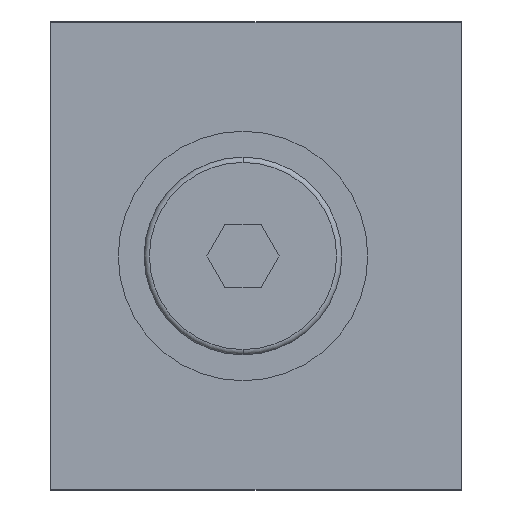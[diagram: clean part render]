
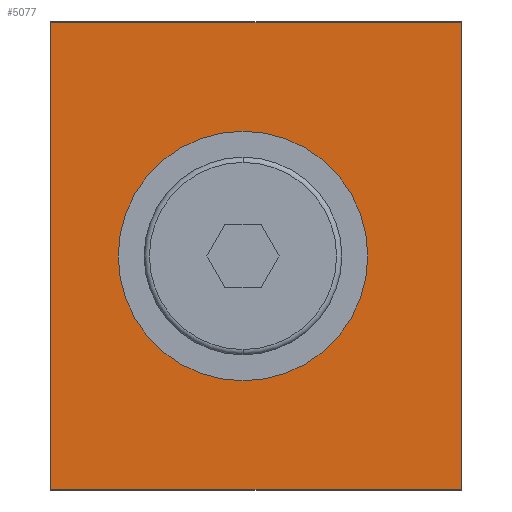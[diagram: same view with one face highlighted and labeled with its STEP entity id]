
A CAD part, left-side view. The second image highlights one B-rep face of the part: STEP entity #5077.
In plain terms, the highlighted planar face has unit normal (-1, 0, 0).
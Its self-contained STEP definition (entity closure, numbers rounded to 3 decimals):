
#37 = CARTESIAN_POINT ( 'NONE',  ( 0., 21., 22.5 ) ) ;
#66 = CARTESIAN_POINT ( 'NONE',  ( 0., 39.5, -0.707 ) ) ;
#76 = VERTEX_POINT ( 'NONE', #478 ) ;
#361 = EDGE_LOOP ( 'NONE', ( #4509, #5651, #4097, #3228 ) ) ;
#423 = CARTESIAN_POINT ( 'NONE',  ( 0., 21., 10.5 ) ) ;
#478 = CARTESIAN_POINT ( 'NONE',  ( 0., 0., 45. ) ) ;
#1446 = DIRECTION ( 'NONE',  ( -1., 0., 0. ) ) ;
#1518 = VECTOR ( 'NONE', #7229, 1000. ) ;
#1531 = LINE ( 'NONE', #66, #1542 ) ;
#1534 = VECTOR ( 'NONE', #9326, 1000. ) ;
#1542 = VECTOR ( 'NONE', #7477, 1000. ) ;
#1550 = LINE ( 'NONE', #7681, #1518 ) ;
#1706 = VECTOR ( 'NONE', #9289, 1000. ) ;
#1730 = LINE ( 'NONE', #7777, #1706 ) ;
#1753 = LINE ( 'NONE', #7891, #1534 ) ;
#2157 = CIRCLE ( 'NONE', #4427, 12. ) ;
#2498 = VERTEX_POINT ( 'NONE', #3493 ) ;
#2742 = EDGE_CURVE ( 'NONE', #4976, #2900, #4412, .T. ) ;
#2900 = VERTEX_POINT ( 'NONE', #4676 ) ;
#2993 = CARTESIAN_POINT ( 'NONE',  ( 0., 39.5, 0. ) ) ;
#3228 = ORIENTED_EDGE ( 'NONE', *, *, #6023, .F. ) ;
#3493 = CARTESIAN_POINT ( 'NONE',  ( 0., 0., 0. ) ) ;
#4097 = ORIENTED_EDGE ( 'NONE', *, *, #6082, .F. ) ;
#4103 = CARTESIAN_POINT ( 'NONE',  ( 0., 0., 45. ) ) ;
#4412 = CIRCLE ( 'NONE', #7017, 12. ) ;
#4427 = AXIS2_PLACEMENT_3D ( 'NONE', #37, #1446, #9029 ) ;
#4509 = ORIENTED_EDGE ( 'NONE', *, *, #6057, .T. ) ;
#4676 = CARTESIAN_POINT ( 'NONE',  ( 0., 21., 34.5 ) ) ;
#4976 = VERTEX_POINT ( 'NONE', #423 ) ;
#5077 = ADVANCED_FACE ( 'NONE', ( #7489, #7519 ), #5217, .F. ) ;
#5217 = PLANE ( 'NONE',  #5600 ) ;
#5600 = AXIS2_PLACEMENT_3D ( 'NONE', #4103, #6994, #7207 ) ;
#5651 = ORIENTED_EDGE ( 'NONE', *, *, #6071, .T. ) ;
#5695 = VERTEX_POINT ( 'NONE', #6398 ) ;
#5897 = CARTESIAN_POINT ( 'NONE',  ( 0., 21., 22.5 ) ) ;
#5966 = EDGE_CURVE ( 'NONE', #2900, #4976, #2157, .T. ) ;
#6023 = EDGE_CURVE ( 'NONE', #2498, #8282, #1730, .T. ) ;
#6057 = EDGE_CURVE ( 'NONE', #2498, #76, #1753, .T. ) ;
#6071 = EDGE_CURVE ( 'NONE', #76, #5695, #1550, .T. ) ;
#6082 = EDGE_CURVE ( 'NONE', #8282, #5695, #1531, .T. ) ;
#6305 = ORIENTED_EDGE ( 'NONE', *, *, #5966, .F. ) ;
#6398 = CARTESIAN_POINT ( 'NONE',  ( 0., 39.5, 45. ) ) ;
#6664 = ORIENTED_EDGE ( 'NONE', *, *, #2742, .F. ) ;
#6845 = DIRECTION ( 'NONE',  ( 0., 0., 1. ) ) ;
#6994 = DIRECTION ( 'NONE',  ( 1., 0., 0. ) ) ;
#7017 = AXIS2_PLACEMENT_3D ( 'NONE', #5897, #7860, #6845 ) ;
#7207 = DIRECTION ( 'NONE',  ( 0., 0., -1. ) ) ;
#7229 = DIRECTION ( 'NONE',  ( 0., 1., 0. ) ) ;
#7477 = DIRECTION ( 'NONE',  ( 0., 0., 1. ) ) ;
#7489 = FACE_OUTER_BOUND ( 'NONE', #361, .T. ) ;
#7519 = FACE_BOUND ( 'NONE', #8018, .T. ) ;
#7681 = CARTESIAN_POINT ( 'NONE',  ( 0., -0.707, 45. ) ) ;
#7777 = CARTESIAN_POINT ( 'NONE',  ( 0., -0.707, 0. ) ) ;
#7860 = DIRECTION ( 'NONE',  ( -1., 0., 0. ) ) ;
#7891 = CARTESIAN_POINT ( 'NONE',  ( 0., 0., -0.707 ) ) ;
#8018 = EDGE_LOOP ( 'NONE', ( #6305, #6664 ) ) ;
#8282 = VERTEX_POINT ( 'NONE', #2993 ) ;
#9029 = DIRECTION ( 'NONE',  ( 0., 0., 1. ) ) ;
#9289 = DIRECTION ( 'NONE',  ( 0., 1., 0. ) ) ;
#9326 = DIRECTION ( 'NONE',  ( 0., 0., 1. ) ) ;
